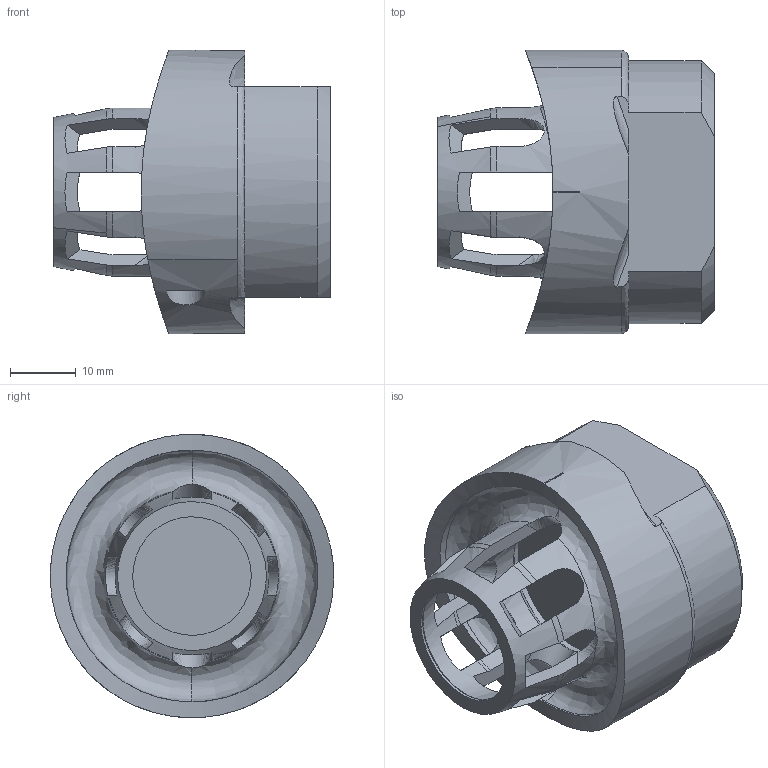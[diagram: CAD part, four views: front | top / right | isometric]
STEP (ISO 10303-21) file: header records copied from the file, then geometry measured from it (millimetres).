
FILE_DESCRIPTION(('STEP AP214'),'1');
FILE_NAME('1070610.stp','2021-02-25T11:12:40',('CAD-PIM'),('TransMagic, Inc.'),'TMR12sp2','TransMagic R12',' ');
FILE_SCHEMA(('AUTOMOTIVE_DESIGN'));
Length unit declared in the file: millimetre
Products named in the file (1): 1070610
Bounding box: 42 x 43 x 42.98 mm (x, y, z)
Volume: 21283.6 mm3; surface area: 10276.3 mm2
Topology: 1 solids, 1 shells, 102 faces, 326 edges, 215 vertices
Faces by surface type: bspline 102
Entity records: 8405 total; most frequent: CARTESIAN_POINT 2774, ORIENTED_EDGE 652, STYLED_ITEM 576, PRESENTATION_STYLE_ASSIGNMENT 576, COLOUR_RGB 576, EDGE_CURVE 326, DIRECTION 315, CURVE_STYLE 302
